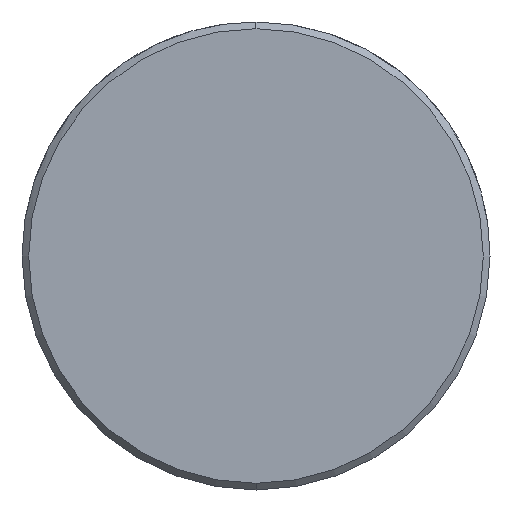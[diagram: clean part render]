
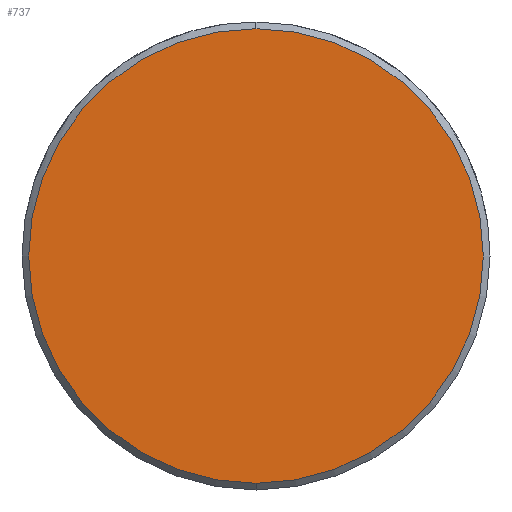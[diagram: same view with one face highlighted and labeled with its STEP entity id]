
A CAD part, left-side view. The second image highlights one B-rep face of the part: STEP entity #737.
In plain terms, the highlighted planar face has unit normal (-1, 0, 0).
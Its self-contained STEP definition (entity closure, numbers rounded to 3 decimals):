
#669=CARTESIAN_POINT('Vertex',(0.,0.,-10.2)) ;
#672=CARTESIAN_POINT('Axis2P3D Location',(0.,0.,0.)) ;
#676=CARTESIAN_POINT('Vertex',(0.,10.2,0.)) ;
#679=CARTESIAN_POINT('Axis2P3D Location',(0.,0.,0.)) ;
#683=CARTESIAN_POINT('Vertex',(0.,0.,10.2)) ;
#705=CARTESIAN_POINT('Axis2P3D Location',(0.,0.,0.)) ;
#709=CARTESIAN_POINT('Vertex',(0.,-10.2,0.)) ;
#712=CARTESIAN_POINT('Axis2P3D Location',(0.,0.,0.)) ;
#726=CARTESIAN_POINT('Axis2P3D Location',(0.,0.,0.)) ;
#673=DIRECTION('Axis2P3D Direction',(1.,0.,-0.)) ;
#680=DIRECTION('Axis2P3D Direction',(1.,0.,-0.)) ;
#706=DIRECTION('Axis2P3D Direction',(1.,0.,-0.)) ;
#713=DIRECTION('Axis2P3D Direction',(1.,0.,-0.)) ;
#727=DIRECTION('Axis2P3D Direction',(1.,0.,-0.)) ;
#728=DIRECTION('Axis2P3D XDirection',(-0.,0.,-1.)) ;
#674=AXIS2_PLACEMENT_3D('Circle Axis2P3D',#672,#673,$) ;
#681=AXIS2_PLACEMENT_3D('Circle Axis2P3D',#679,#680,$) ;
#707=AXIS2_PLACEMENT_3D('Circle Axis2P3D',#705,#706,$) ;
#714=AXIS2_PLACEMENT_3D('Circle Axis2P3D',#712,#713,$) ;
#729=AXIS2_PLACEMENT_3D('Plane Axis2P3D',#726,#727,#728) ;
#732=ORIENTED_EDGE('',*,*,#678,.F.) ;
#733=ORIENTED_EDGE('',*,*,#716,.F.) ;
#734=ORIENTED_EDGE('',*,*,#711,.F.) ;
#735=ORIENTED_EDGE('',*,*,#685,.F.) ;
#737=ADVANCED_FACE('549-18X100',(#736),#730,.F.) ;
#675=CIRCLE('generated circle',#674,10.2) ;
#682=CIRCLE('generated circle',#681,10.2) ;
#708=CIRCLE('generated circle',#707,10.2) ;
#715=CIRCLE('generated circle',#714,10.2) ;
#678=EDGE_CURVE('',#670,#677,#675,.T.) ;
#685=EDGE_CURVE('',#677,#684,#682,.T.) ;
#711=EDGE_CURVE('',#684,#710,#708,.T.) ;
#716=EDGE_CURVE('',#710,#670,#715,.T.) ;
#731=EDGE_LOOP('',(#732,#733,#734,#735)) ;
#736=FACE_OUTER_BOUND('',#731,.T.) ;
#730=PLANE('Plane',#729) ;
#670=VERTEX_POINT('',#669) ;
#677=VERTEX_POINT('',#676) ;
#684=VERTEX_POINT('',#683) ;
#710=VERTEX_POINT('',#709) ;
